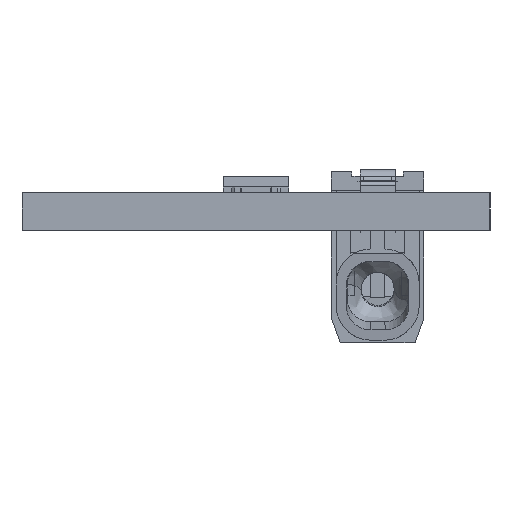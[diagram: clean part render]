
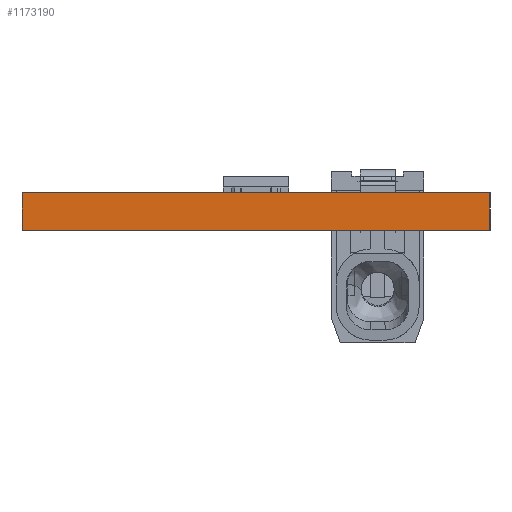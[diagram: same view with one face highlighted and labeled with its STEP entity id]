
A CAD part, left-side view. The second image highlights one B-rep face of the part: STEP entity #1173190.
In plain terms, the highlighted planar face has unit normal (-1, 0, 0).
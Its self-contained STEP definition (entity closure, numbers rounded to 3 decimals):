
#1153940=CARTESIAN_POINT('',(0.,0.,0.));
#1153950=DIRECTION('',(0.,1.,0.));
#1153960=VECTOR('',#1153950,0.039);
#1153970=LINE('',#1153940,#1153960);
#1153980=CARTESIAN_POINT('',(0.,0.,0.));
#1153990=VERTEX_POINT('',#1153980);
#1154000=CARTESIAN_POINT('',(0.,20.,0.));
#1154010=VERTEX_POINT('',#1154000);
#1154020=EDGE_CURVE('',#1153990,#1154010,#1153970,.T.);
#1160330=CARTESIAN_POINT('',(0.,0.,-1.6));
#1160340=VERTEX_POINT('',#1160330);
#1162470=CARTESIAN_POINT('',(0.,20.,-1.6));
#1162480=VERTEX_POINT('',#1162470);
#1162510=CARTESIAN_POINT('',(0.,0.,-1.6));
#1162520=DIRECTION('',(0.,1.,0.));
#1162530=VECTOR('',#1162520,0.039);
#1162540=LINE('',#1162510,#1162530);
#1162550=EDGE_CURVE('',#1160340,#1162480,#1162540,.T.);
#1166680=CARTESIAN_POINT('',(0.,0.,0.));
#1166690=DIRECTION('',(0.,0.,-1.));
#1166700=VECTOR('',#1166690,1.);
#1166710=LINE('',#1166680,#1166700);
#1166720=EDGE_CURVE('',#1153990,#1160340,#1166710,.T.);
#1172900=CARTESIAN_POINT('',(0.,20.,0.));
#1172910=DIRECTION('',(0.,0.,-1.));
#1172920=VECTOR('',#1172910,1.);
#1172930=LINE('',#1172900,#1172920);
#1172940=EDGE_CURVE('',#1154010,#1162480,#1172930,.T.);
#1173080=CARTESIAN_POINT('',(0.,0.,0.));
#1173090=DIRECTION('',(1.,0.,0.));
#1173100=DIRECTION('',(0.,-1.,0.));
#1173110=AXIS2_PLACEMENT_3D('',#1173080,#1173090,#1173100);
#1173120=PLANE('',#1173110);
#1173130=ORIENTED_EDGE('',*,*,#1154020,.T.);
#1173140=ORIENTED_EDGE('',*,*,#1166720,.F.);
#1173150=ORIENTED_EDGE('',*,*,#1162550,.F.);
#1173160=ORIENTED_EDGE('',*,*,#1172940,.T.);
#1173170=EDGE_LOOP('',(#1173160,#1173150,#1173140,#1173130));
#1173180=FACE_OUTER_BOUND('',#1173170,.T.);
#1173190=ADVANCED_FACE('',(#1173180),#1173120,.F.);
